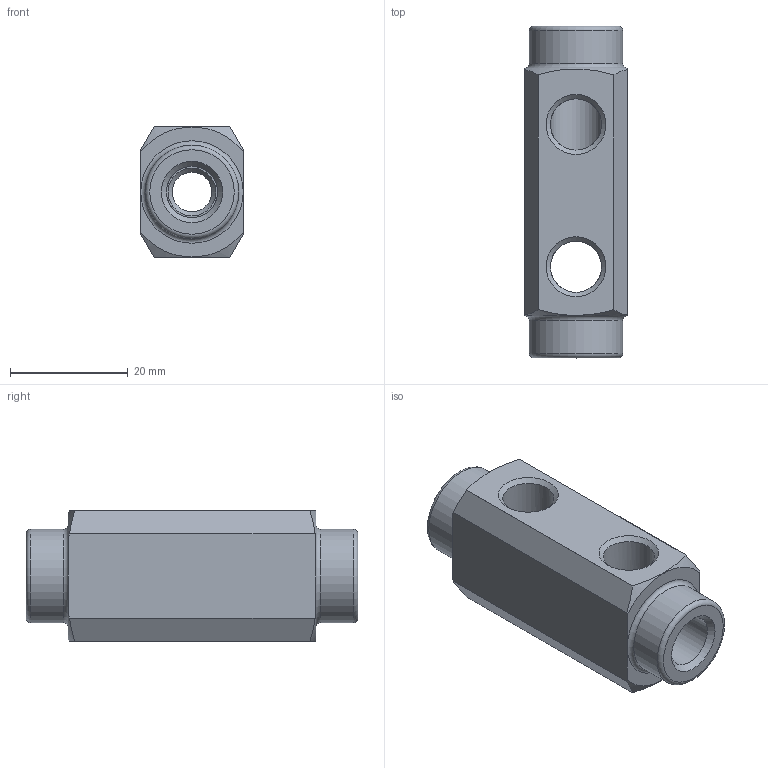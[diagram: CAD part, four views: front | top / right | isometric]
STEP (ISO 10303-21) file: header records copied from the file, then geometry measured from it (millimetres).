
FILE_DESCRIPTION(/* description */ (''),/* implementation_level */ '2;1');
FILE_NAME(/* name */ 'C:/Users/drich/Desktop/181H-RL v1.step',/* time_stamp */ '2020-01-10T21:54:20-06:00',/* author */ (''),/* organization */ (''),/* preprocessor_version */ 'ST-DEVELOPER v18',/* originating_system */ 'Autodesk Translation Framework v8.12.0.6',/* authorisation */ '');
FILE_SCHEMA (('AUTOMOTIVE_DESIGN { 1 0 10303 214 3 1 1 }'));
Length unit declared in the file: inch
Products named in the file (2): 181H-RL; 181H-RL_1
Assembly tree (1 placements, depth 2):
  181H-RL
    181H-RL_1
Bounding box: 17.42 x 56.34 x 22.23 mm (x, y, z)
Volume: 13901.5 mm3; surface area: 5991 mm2
Topology: 1 solids, 1 shells, 46 faces, 129 edges, 87 vertices
Faces by surface type: cone 17, plane 13, cylinder 12, torus 4
Full cylindrical faces by diameter (mm): 6.697 x1, 8.707 x5, 15.875 x2
Entity records: 1607 total; most frequent: CARTESIAN_POINT 338, DIRECTION 272, ORIENTED_EDGE 258, EDGE_CURVE 129, AXIS2_PLACEMENT_3D 120, VERTEX_POINT 87, CIRCLE 63, EDGE_LOOP 56
